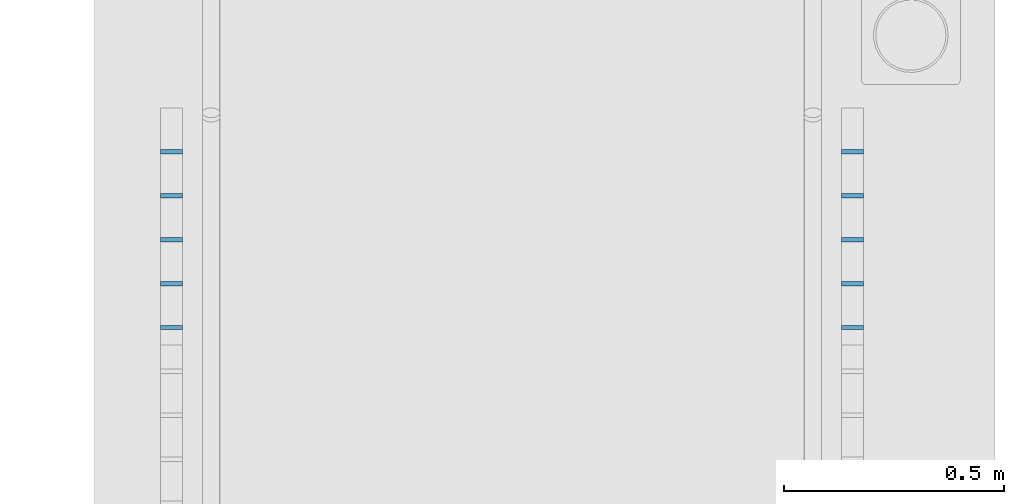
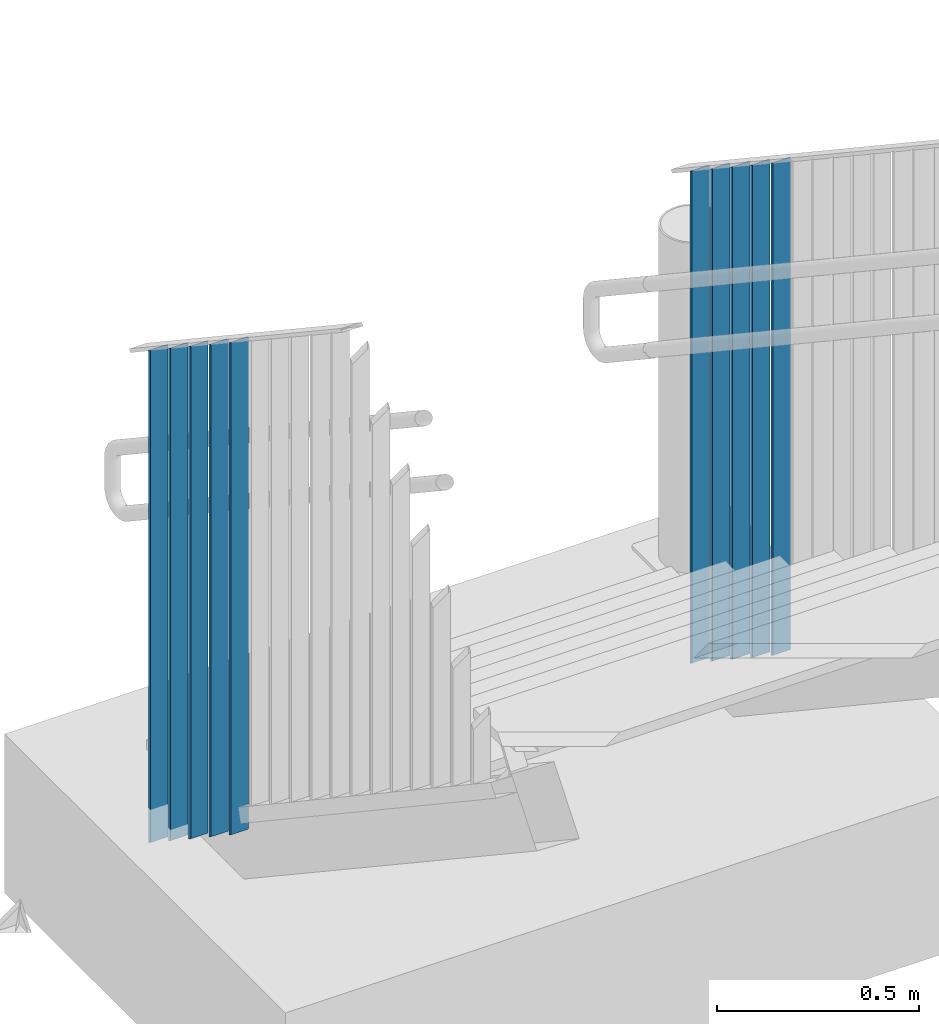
# One storey, part 13 of 418: 10 members, 2 elements without a shape of their own.
"""IFC2X3 building model written with IfcOpenShell, lengths in millimetres."""

from ifc_helpers import new_model, entity, si_unit, converted_unit, derived_unit, money_unit, direction, frame, origin_with_axes, place, context, subcontext, project, spatial, faceted_brep, source, transform, mapped, material, type_object, element, aggregate, save


model = new_model("IFC2X3")

# Units and contexts
model_context = context("Model", 3, precision=0.01, world=origin_with_axes(), true_north=direction((0.0, 1.0)))
body_context = subcontext(model_context, "Body", "Model", "MODEL_VIEW")
ifc_project = project(units=[si_unit("LENGTHUNIT", "METRE", prefix="MILLI"), si_unit("AREAUNIT", "SQUARE_METRE"), si_unit("VOLUMEUNIT", "CUBIC_METRE"), converted_unit("PLANEANGLEUNIT", "DEGREE", entity("IfcPlaneAngleMeasure", 0.0174532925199), si_unit("PLANEANGLEUNIT", "RADIAN"), dimensions=[0, 0, 0, 0, 0, 0, 0]), si_unit("SOLIDANGLEUNIT", "STERADIAN"), money_unit("EUR"), converted_unit("TIMEUNIT", "Year", entity("IfcTimeMeasure", 31556926.0), si_unit("TIMEUNIT", "SECOND"), dimensions=[0, 0, 1, 0, 0, 0, 0]), si_unit("MASSUNIT", "GRAM", prefix="KILO"), si_unit("THERMODYNAMICTEMPERATUREUNIT", "DEGREE_CELSIUS"), si_unit("LUMINOUSINTENSITYUNIT", "LUMEN"), si_unit("ENERGYUNIT", "JOULE", prefix="MEGA"), derived_unit("THERMALCONDUCTANCEUNIT", [(si_unit("POWERUNIT", "WATT"), 1), (si_unit("LENGTHUNIT", "METRE"), -1), (si_unit("THERMODYNAMICTEMPERATUREUNIT", "KELVIN"), -1)]), derived_unit("SPECIFICHEATCAPACITYUNIT", [(si_unit("ENERGYUNIT", "JOULE"), 1), (si_unit("MASSUNIT", "GRAM", prefix="KILO"), -1), (si_unit("THERMODYNAMICTEMPERATUREUNIT", "KELVIN"), -1)]), derived_unit("MASSDENSITYUNIT", [(si_unit("MASSUNIT", "GRAM", prefix="KILO"), 1), (si_unit("VOLUMEUNIT", "CUBIC_METRE"), -1)])], contexts=[model_context])

# Site, building, storey
site_placement = place(None, origin_with_axes())
site = spatial("IfcSite", under=ifc_project, at=site_placement, Name="Paldiski mnt 245/1, Tallinn, Harjumaa", CompositionType="COMPLEX")
building_placement = place(site_placement, origin_with_axes())
building = spatial("IfcBuilding", under=site, at=building_placement, Name="RKAS Hoone üldnimetus (kasutust iseloomustav) -> IFC Project Manager -> SOLIBRI", CompositionType="ELEMENT")
storey_placement = place(building_placement, origin_with_axes())
storey = spatial("IfcBuildingStorey", under=building, at=storey_placement, Name="Esimene korrus", CompositionType="ELEMENT", Elevation=0.0)

# Railing, members
railing_type = type_object("IfcRailingType", Name="Railing Type", PredefinedType="NOTDEFINED")
railing_1_placement = place(storey_placement, frame((-15438.0000282, 781.88210964, -670.434782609), z_axis=(0.0, 0.0, 1.0), x_axis=(-0.773149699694, -0.634223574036, 0.0)))
railing_1 = element("IfcRailing", 1, at=railing_1_placement, inside=storey, type_object=railing_type, Name="Trepipiire", PredefinedType="NOTDEFINED")
ifc_material = material(Name="RAL7016")
member_type = type_object("IfcMemberType", Name="IfcMember", PredefinedType="POST")
shared_shape_1 = source(origin_with_axes(), body_context, "Body", "Brep", [
    faceted_brep([(25.0, 5.0, 3.32528180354), (-25.0, 5.0, 3.32528180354), (-25.0, 4.99999999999, 1493.3252818), (25.0, 4.99999999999, 1493.3252818), (25.0, -5.0, -3.32528180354), (-25.0, -5.0, -3.32528180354), (-25.0, -5.00000000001, 1486.6747182), (25.0, -5.00000000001, 1486.6747182)], [[[0, 1, 2, 3]], [[0, 4, 5, 1]], [[1, 5, 6, 2]], [[3, 2, 6, 7]], [[4, 0, 3, 7]], [[5, 4, 7, 6]]]),
])
member_1_placement = place(railing_1_placement, frame((-602.210360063, -773.542295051, -233.494363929), z_axis=(0.0, 0.0, 1.0), x_axis=(-0.773149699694, 0.634223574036, 0.0)))
member_1 = element("IfcMember", 2, at=member_1_placement, type_object=member_type, material=ifc_material, Name="Balustraad - 001", ObjectType="POST", context=body_context, shape_type="MappedRepresentation", body=[
    mapped(shared_shape_1, transform((0.0, 0.0, 0.0), x_axis=(-1.0, 0.0, 0.0), y_axis=(0.0, -1.0, 0.0), z_axis=(0.0, 0.0, 1.0))),
])
member_2_placement = place(railing_1_placement, frame((-538.78800266, -696.227325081, -166.988727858), z_axis=(0.0, 0.0, 1.0), x_axis=(-0.773149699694, 0.634223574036, 0.0)))
member_2 = element("IfcMember", 3, at=member_2_placement, type_object=member_type, material=ifc_material, Name="Balustraad - 001", ObjectType="POST", context=body_context, shape_type="MappedRepresentation", body=[
    mapped(shared_shape_1, transform((0.0, 0.0, 0.0), x_axis=(-1.0, 0.0, 0.0), y_axis=(0.0, -1.0, 0.0), z_axis=(0.0, 0.0, 1.0))),
])
member_3_placement = place(railing_1_placement, frame((-475.365645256, -618.912355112, -100.483091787), z_axis=(0.0, 0.0, 1.0), x_axis=(-0.773149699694, 0.634223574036, 0.0)))
member_3 = element("IfcMember", 4, at=member_3_placement, type_object=member_type, material=ifc_material, Name="Balustraad - 001", ObjectType="POST", context=body_context, shape_type="MappedRepresentation", body=[
    mapped(shared_shape_1, transform((0.0, 0.0, 0.0), x_axis=(-1.0, 0.0, 0.0), y_axis=(0.0, -1.0, 0.0), z_axis=(0.0, 0.0, 1.0))),
])
member_4_placement = place(railing_1_placement, frame((-411.943287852, -541.597385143, -33.9774557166), z_axis=(0.0, 0.0, 1.0), x_axis=(-0.773149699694, 0.634223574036, 0.0)))
member_4 = element("IfcMember", 5, at=member_4_placement, type_object=member_type, material=ifc_material, Name="Balustraad - 001", ObjectType="POST", context=body_context, shape_type="MappedRepresentation", body=[
    mapped(shared_shape_1, transform((0.0, 0.0, 0.0), x_axis=(-1.0, 0.0, 0.0), y_axis=(0.0, -1.0, 0.0), z_axis=(0.0, 0.0, 1.0))),
])
member_5_placement = place(railing_1_placement, frame((-348.520930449, -464.282415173, 32.5281803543), z_axis=(0.0, 0.0, 1.0), x_axis=(-0.773149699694, 0.634223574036, 0.0)))
member_5 = element("IfcMember", 6, at=member_5_placement, type_object=member_type, material=ifc_material, Name="Balustraad - 001", ObjectType="POST", context=body_context, shape_type="MappedRepresentation", body=[
    mapped(shared_shape_1, transform((0.0, 0.0, 0.0), x_axis=(-1.0, 0.0, 0.0), y_axis=(0.0, -1.0, 0.0), z_axis=(0.0, 0.0, 1.0))),
])
aggregate(railing_1, [member_1, member_2, member_3, member_4, member_5])

railing_2_placement = place(storey_placement, frame((-13938.0000282, 1623.82640275, -670.434782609), z_axis=(0.0, 0.0, 1.0), x_axis=(0.773149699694, 0.634223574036, 0.0)))
railing_2 = element("IfcRailing", 7, at=railing_2_placement, inside=storey, type_object=railing_type, Name="Trepipiire", PredefinedType="NOTDEFINED")
shared_shape_2 = source(origin_with_axes(), body_context, "Body", "Brep", [
    faceted_brep([(25.0, 5.0, 3.32528180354), (-25.0, 5.0, 3.32528180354), (-25.0, 4.99999999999, 1493.3252818), (25.0, 4.99999999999, 1493.3252818), (25.0, -5.0, -3.32528180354), (-25.0, -5.0, -3.32528180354), (-25.0, -5.00000000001, 1486.6747182), (25.0, -5.00000000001, 1486.6747182)], [[[0, 1, 2, 3]], [[0, 4, 5, 1]], [[1, 5, 6, 2]], [[3, 2, 6, 7]], [[4, 0, 3, 7]], [[5, 4, 7, 6]]]),
])
member_6_placement = place(railing_2_placement, frame((106.88692633, 90.8821389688, -233.494363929), z_axis=(0.0, 0.0, 1.0), x_axis=(0.773149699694, -0.634223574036, 0.0)))
member_6 = element("IfcMember", 8, at=member_6_placement, type_object=member_type, material=ifc_material, Name="Balustraad - 001", ObjectType="POST", context=body_context, shape_type="MappedRepresentation", body=[
    mapped(shared_shape_2, transform((0.0, 0.0, 0.0), x_axis=(-1.0, 0.0, 0.0), y_axis=(0.0, -1.0, 0.0), z_axis=(0.0, 0.0, 1.0))),
])
member_7_placement = place(railing_2_placement, frame((43.4645689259, 13.5671689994, -166.988727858), z_axis=(0.0, 0.0, 1.0), x_axis=(0.773149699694, -0.634223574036, 0.0)))
member_7 = element("IfcMember", 9, at=member_7_placement, type_object=member_type, material=ifc_material, Name="Balustraad - 001", ObjectType="POST", context=body_context, shape_type="MappedRepresentation", body=[
    mapped(shared_shape_2, transform((0.0, 0.0, 0.0), x_axis=(-1.0, 0.0, 0.0), y_axis=(0.0, -1.0, 0.0), z_axis=(0.0, 0.0, 1.0))),
])
member_8_placement = place(railing_2_placement, frame((-19.9577884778, -63.74780097, -100.483091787), z_axis=(0.0, 0.0, 1.0), x_axis=(0.773149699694, -0.634223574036, 0.0)))
member_8 = element("IfcMember", 10, at=member_8_placement, type_object=member_type, material=ifc_material, Name="Balustraad - 001", ObjectType="POST", context=body_context, shape_type="MappedRepresentation", body=[
    mapped(shared_shape_2, transform((0.0, 0.0, 0.0), x_axis=(-1.0, 0.0, 0.0), y_axis=(0.0, -1.0, 0.0), z_axis=(0.0, 0.0, 1.0))),
])
member_9_placement = place(railing_2_placement, frame((-83.3801458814, -141.062770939, -33.9774557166), z_axis=(0.0, 0.0, 1.0), x_axis=(0.773149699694, -0.634223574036, 0.0)))
member_9 = element("IfcMember", 11, at=member_9_placement, type_object=member_type, material=ifc_material, Name="Balustraad - 001", ObjectType="POST", context=body_context, shape_type="MappedRepresentation", body=[
    mapped(shared_shape_2, transform((0.0, 0.0, 0.0), x_axis=(-1.0, 0.0, 0.0), y_axis=(0.0, -1.0, 0.0), z_axis=(0.0, 0.0, 1.0))),
])
member_10_placement = place(railing_2_placement, frame((-146.802503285, -218.377740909, 32.5281803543), z_axis=(0.0, 0.0, 1.0), x_axis=(0.773149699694, -0.634223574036, 0.0)))
member_10 = element("IfcMember", 12, at=member_10_placement, type_object=member_type, material=ifc_material, Name="Balustraad - 001", ObjectType="POST", context=body_context, shape_type="MappedRepresentation", body=[
    mapped(shared_shape_2, transform((0.0, 0.0, 0.0), x_axis=(-1.0, 0.0, 0.0), y_axis=(0.0, -1.0, 0.0), z_axis=(0.0, 0.0, 1.0))),
])
aggregate(railing_2, [member_6, member_7, member_8, member_9, member_10])

save(model, "model.ifc")
